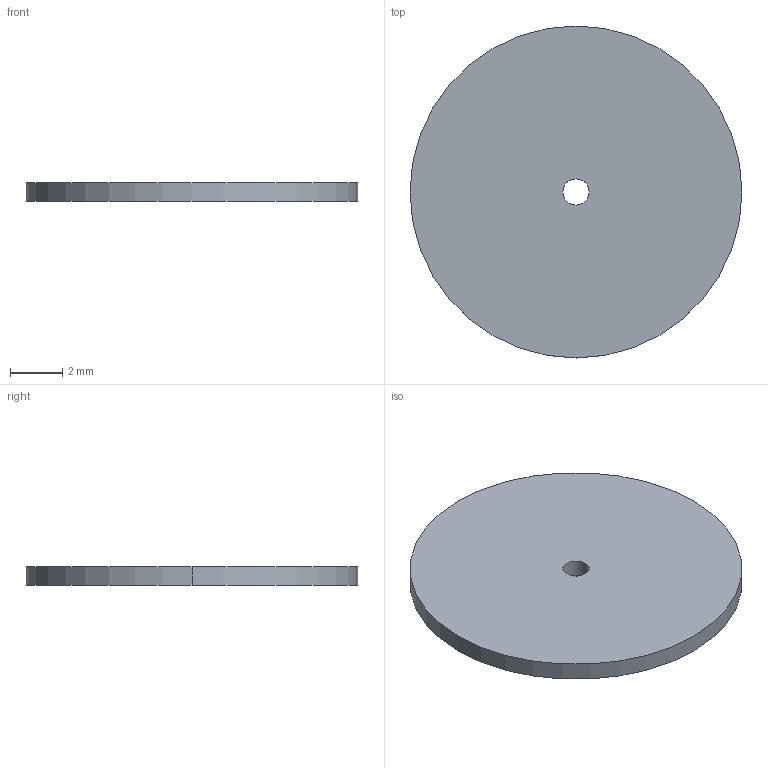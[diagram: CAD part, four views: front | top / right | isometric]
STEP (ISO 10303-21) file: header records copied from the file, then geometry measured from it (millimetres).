
FILE_DESCRIPTION((''),'2;1');
FILE_NAME('1MM','2022-04-24T',('Administrator'),(''),'CREO PARAMETRIC BY PTC INC, 2015290','CREO PARAMETRIC BY PTC INC, 2015290','');
FILE_SCHEMA(('CONFIG_CONTROL_DESIGN'));
Length unit declared in the file: millimetre
Products named in the file (1): 1MM
Bounding box: 12.7 x 12.7 x 0.7 mm (x, y, z)
Volume: 88.1 mm3; surface area: 281.9 mm2
Topology: 1 solids, 1 shells, 6 faces, 12 edges, 8 vertices
Faces by surface type: cylinder 4, plane 2
Entity records: 206 total; most frequent: DIRECTION 32, CARTESIAN_POINT 26, ORIENTED_EDGE 24, AXIS2_PLACEMENT_3D 14, EDGE_CURVE 12, VERTEX_POINT 8, EDGE_LOOP 8, CIRCLE 8
